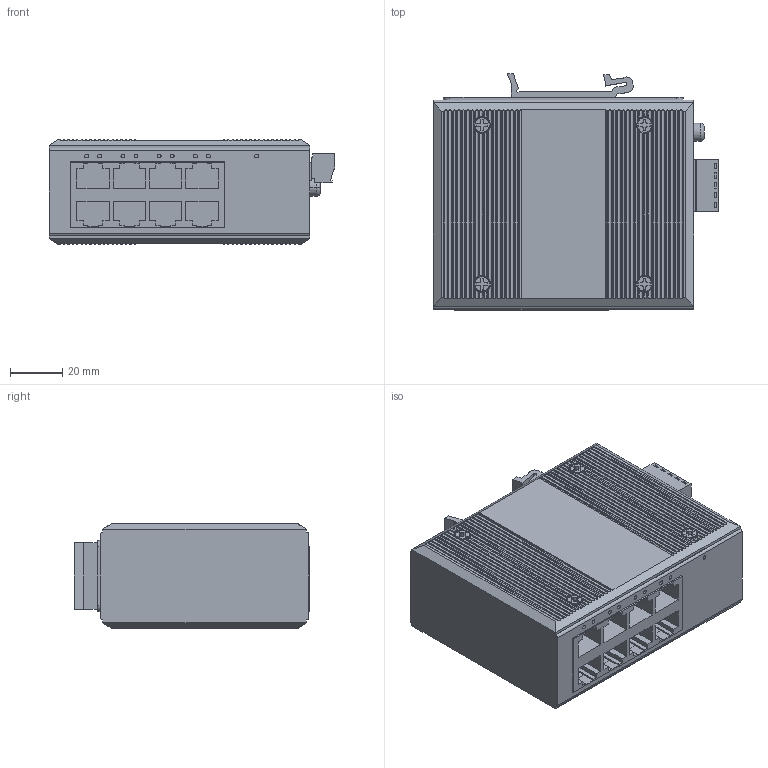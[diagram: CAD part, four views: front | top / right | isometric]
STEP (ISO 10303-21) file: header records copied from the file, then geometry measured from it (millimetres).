
FILE_DESCRIPTION((''),'2;1');
FILE_NAME('IES-1080S-MINI-ALL_ASM','2023-02-09T11:28:52',('Administrator'),('yulong DESIGN'),'CREO PARAMETRIC BY PTC INC, 2021023','CREO PARAMETRIC BY PTC INC, 2021023','');
FILE_SCHEMA(('AUTOMOTIVE_DESIGN { 1 0 10303 214 1 1 1 1 }'));
Products named in the file (3): IES-1080S-MINI; 5-PIN; IES-1080S-MINI-ALL_ASM
Assembly tree (2 placements, depth 2):
  IES-1080S-MINI-ALL_ASM
    IES-1080S-MINI
    5-PIN
Bounding box: 109.7 x 90.51 x 40 mm (x, y, z)
Volume: 313005.2 mm3; surface area: 42097.5 mm2
Topology: 2 solids, 2 shells, 1392 faces, 3810 edges, 2524 vertices
Faces by surface type: plane 835, cylinder 515, cone 32, torus 10
Entity records: 66229 total; most frequent: CARTESIAN_POINT 10398, ORIENTED_EDGE 7620, DIRECTION 6394, PRESENTATION_STYLE_ASSIGNMENT 5204, STYLED_ITEM 5204, CURVE_STYLE 3810, EDGE_CURVE 3810, VECTOR 2536
